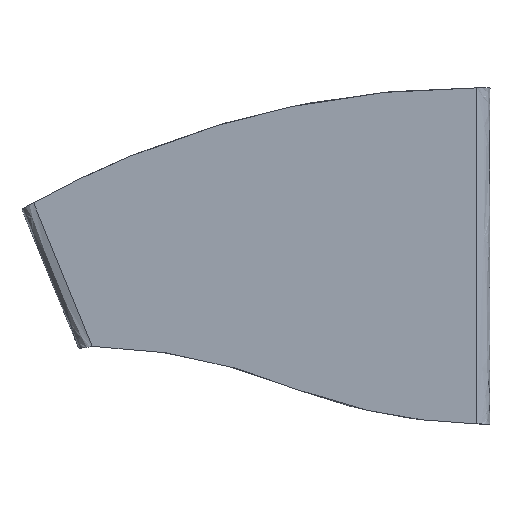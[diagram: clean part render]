
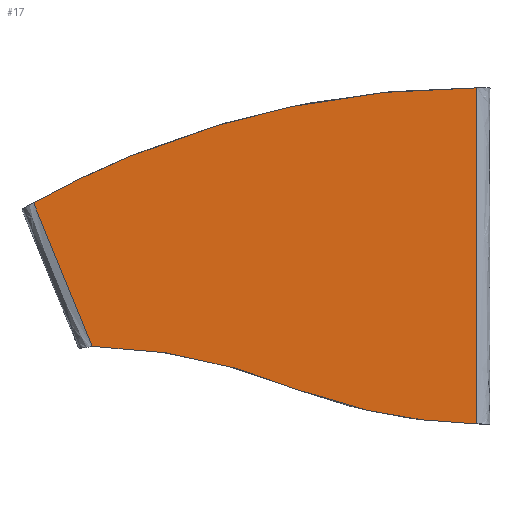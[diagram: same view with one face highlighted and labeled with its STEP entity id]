
A CAD part, top view. The second image highlights one B-rep face of the part: STEP entity #17.
In plain terms, the highlighted planar face has unit normal (0, 0, 1).
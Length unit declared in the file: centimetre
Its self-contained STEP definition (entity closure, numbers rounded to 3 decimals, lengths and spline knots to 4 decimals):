
#17=ADVANCED_FACE($,(#28),#117,.T.);
#28=FACE_OUTER_BOUND($,#39,.T.);
#39=EDGE_LOOP($,(#55,#56,#57,#58,#59));
#55=ORIENTED_EDGE($,*,*,#93,.T.);
#56=ORIENTED_EDGE($,*,*,#99,.T.);
#57=ORIENTED_EDGE($,*,*,#91,.T.);
#58=ORIENTED_EDGE($,*,*,#92,.T.);
#59=ORIENTED_EDGE($,*,*,#85,.F.);
#85=EDGE_CURVE($,#104,#105,#130,.T.);
#91=EDGE_CURVE($,#108,#109,#136,.T.);
#92=EDGE_CURVE($,#109,#105,#137,.T.);
#93=EDGE_CURVE($,#104,#112,#138,.T.);
#99=EDGE_CURVE($,#112,#108,#141,.T.);
#104=VERTEX_POINT($,#1657);
#105=VERTEX_POINT($,#1658);
#108=VERTEX_POINT($,#1661);
#109=VERTEX_POINT($,#1662);
#112=VERTEX_POINT($,#1665);
#117=PLANE($,#232);
#130=B_SPLINE_CURVE_WITH_KNOTS($,3,(#242,#243,#244,#245),.UNSPECIFIED.,.F.,
.F.,(4,4),(-57.3459,-25.4933),.UNSPECIFIED.);
#136=B_SPLINE_CURVE_WITH_KNOTS($,3,(#474,#475,#476,#477),.UNSPECIFIED.,.F.,
.F.,(4,4),(-69.0739,-0.0002),.UNSPECIFIED.);
#137=B_SPLINE_CURVE_WITH_KNOTS($,3,(#478,#479,#480,#481,#482),.UNSPECIFIED.,
.F.,.F.,(4,1,4),(296.8088,344.3089,391.8089),.UNSPECIFIED.);
#138=B_SPLINE_CURVE_WITH_KNOTS($,3,(#483,#484,#485,#486),.UNSPECIFIED.,.F.,
.F.,(4,4),(86.4197,86.7118),.UNSPECIFIED.);
#141=B_SPLINE_CURVE_WITH_KNOTS($,3,(#501,#502,#503,#504,#505,#506,#507),
.UNSPECIFIED.,.F.,.F.,(4,3,4),(86.7118,127.1131,167.4228),
.UNSPECIFIED.);
#232=AXIS2_PLACEMENT_3D($,#1179,#237,$);
#237=DIRECTION($,(0.,0.,1.));
#242=CARTESIAN_POINT($,(14.4667,7.3988,32.3438));
#243=CARTESIAN_POINT($,(10.4444,17.225,32.3438));
#244=CARTESIAN_POINT($,(6.4221,27.0511,32.3438));
#245=CARTESIAN_POINT($,(2.3998,36.8773,32.3438));
#474=CARTESIAN_POINT($,(93.5,-8.5367,32.3438));
#475=CARTESIAN_POINT($,(93.5,14.4878,32.3438));
#476=CARTESIAN_POINT($,(93.5,37.5122,32.3438));
#477=CARTESIAN_POINT($,(93.5,60.5367,32.3438));
#478=CARTESIAN_POINT($,(93.5,60.5367,32.3438));
#479=CARTESIAN_POINT($,(77.8159,60.5843,32.3438));
#480=CARTESIAN_POINT($,(45.9014,56.5946,32.3438));
#481=CARTESIAN_POINT($,(16.0787,44.5507,32.3438));
#482=CARTESIAN_POINT($,(2.3998,36.8773,32.3438));
#483=CARTESIAN_POINT($,(14.4667,7.3988,32.3438));
#484=CARTESIAN_POINT($,(14.5619,7.3965,32.3438));
#485=CARTESIAN_POINT($,(14.6577,7.397,32.3438));
#486=CARTESIAN_POINT($,(14.7525,7.3909,32.3438));
#501=CARTESIAN_POINT($,(14.7525,7.3909,32.3438));
#502=CARTESIAN_POINT($,(28.1494,7.0961,32.3438));
#503=CARTESIAN_POINT($,(41.6886,4.3619,32.3438));
#504=CARTESIAN_POINT($,(54.153,-0.5558,32.3438));
#505=CARTESIAN_POINT($,(66.603,-5.4689,32.3438));
#506=CARTESIAN_POINT($,(80.1196,-8.2103,32.3438));
#507=CARTESIAN_POINT($,(93.5,-8.5367,32.3438));
#1179=CARTESIAN_POINT($,(1.4843,-8.5367,32.3438));
#1657=CARTESIAN_POINT($,(14.4667,7.3988,32.3438));
#1658=CARTESIAN_POINT($,(2.3998,36.8773,32.3438));
#1661=CARTESIAN_POINT($,(93.5,-8.5367,32.3438));
#1662=CARTESIAN_POINT($,(93.5,60.5367,32.3438));
#1665=CARTESIAN_POINT($,(14.7525,7.3909,32.3438));
